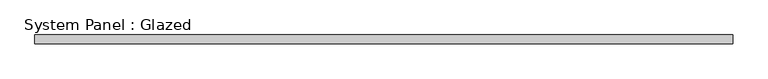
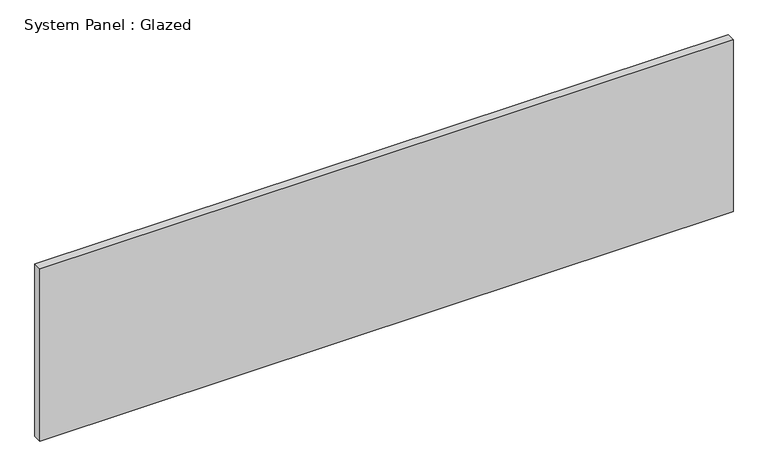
"""IFC4 building model written with IfcOpenShell, lengths in millimetres: plate geometry, System Panel : Glazed."""

from ifc_helpers import new_model, si_unit, origin, origin_with_axes, place, context, project, spatial, polyline, outline, extrude, source, transform, mapped, element, save


def system_panel_glazed_ec99e3cf(model_context):
    return source(origin(), model_context, "Body", "SweptSolid", [
        extrude(outline(polyline([(1000.0, 24.5), (-1000.0, 24.5), (-1000.0, 49.5), (1000.0, 49.5), (1000.0, 24.5)])), origin_with_axes(), (0.0, 0.0, 1.0), 525.0),
    ])


if __name__ == "__main__":
    model = new_model("IFC4")
    model_context = context("Model", 3, world=origin())
    ifc_project = project(units=[si_unit("LENGTHUNIT", "METRE", prefix="MILLI")], contexts=[model_context])
    site = spatial("IfcSite", under=ifc_project)
    building = spatial("IfcBuilding", under=site)
    placement = place(None, origin())
    system_panel_glazed_shape = system_panel_glazed_ec99e3cf(model_context)
    element("IfcPlate", 1, ObjectType="System Panel : Glazed", at=placement, inside=building, context=model_context, shape_type="MappedRepresentation", body=[
        mapped(system_panel_glazed_shape, transform((0.0, 0.0, 0.0), x_axis=(1.0, 0.0, 0.0), y_axis=(0.0, 1.0, 0.0), z_axis=(0.0, 0.0, 1.0))),
    ])
    save(model, "model.ifc")
